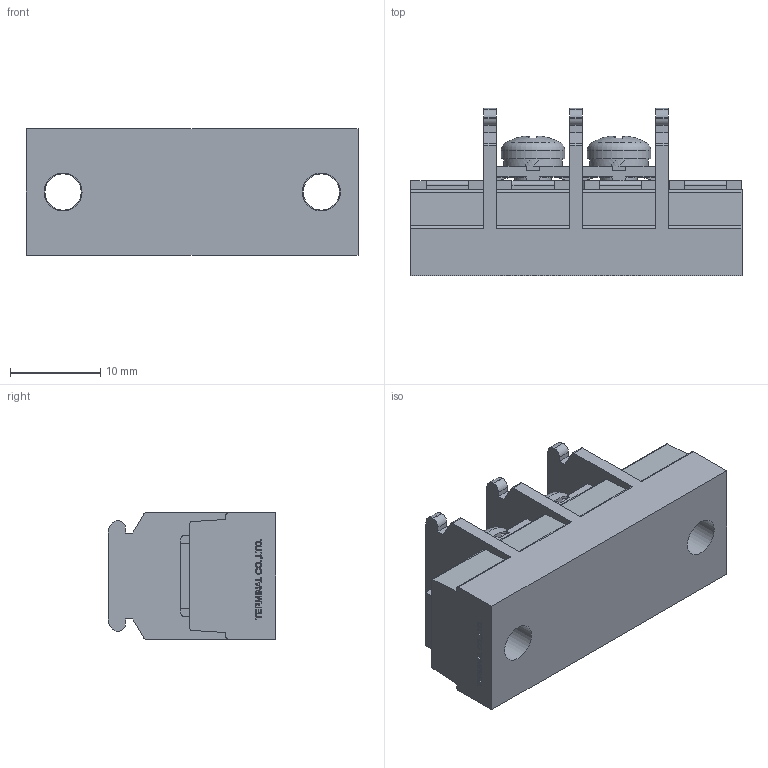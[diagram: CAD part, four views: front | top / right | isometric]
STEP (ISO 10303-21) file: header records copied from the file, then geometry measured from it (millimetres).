
FILE_DESCRIPTION(/* description */ ('Alibre Inc.'),/* implementation_level */ '2;1');
FILE_NAME(/* name */ 'export-8581D8A2-AD4C-40CC-8661-C25AE1FCA94C',/* time_stamp */ '2021-02-13T15:46:29+09:00',/* author */ (''),/* organization */ (''),/* preprocessor_version */ 'ST-DEVELOPER v17',/* originating_system */ 'Alibre',/* authorisation */ '');
FILE_SCHEMA (('CONFIG_CONTROL_DESIGN'));
Length unit declared in the file: millimetre
Bounding box: 36.7 x 18.5 x 14 mm (x, y, z)
Volume: 5443.1 mm3; surface area: 3712.1 mm2
Topology: 1 solids, 19 shells, 679 faces, 1852 edges, 1228 vertices
Faces by surface type: plane 497, bspline 104, cylinder 62, cone 10, torus 4, sphere 2
Full cylindrical faces by diameter (mm): 4 x6, 4.2 x2, 7 x2
Entity records: 20612 total; most frequent: CARTESIAN_POINT 4668, ORIENTED_EDGE 3660, DIRECTION 2388, EDGE_CURVE 1830, VECTOR 1382, LINE 1382, VERTEX_POINT 1222, EDGE_LOOP 740
